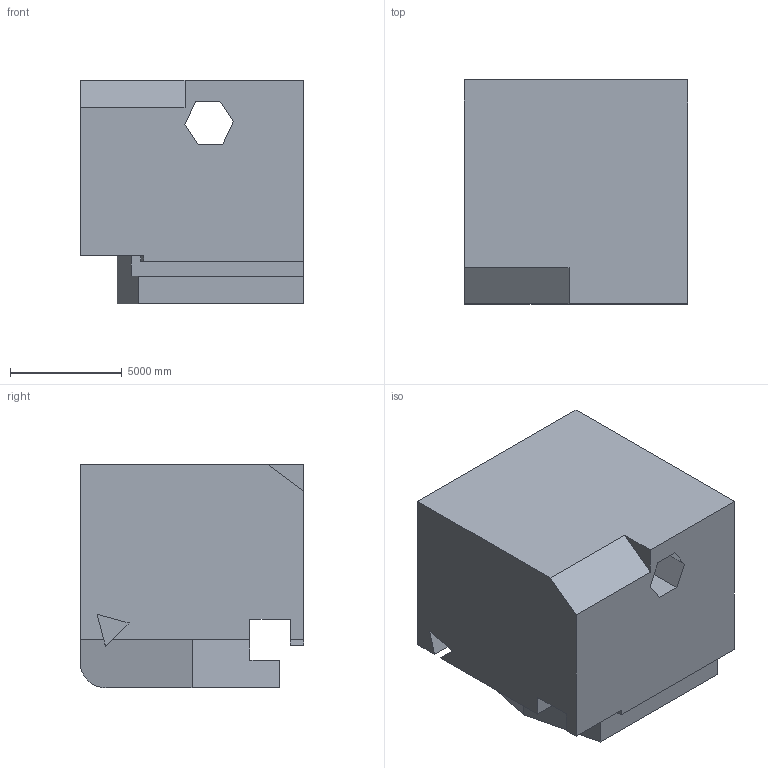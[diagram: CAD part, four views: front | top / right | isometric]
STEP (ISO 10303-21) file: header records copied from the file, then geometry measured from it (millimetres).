
FILE_DESCRIPTION (( 'STEP AP203' ), '1' );
FILE_NAME ('1736.STEP', '2022-08-19T12:13:52', ( 'user' ), ( '' ), 'SwSTEP 2.0', 'SolidWorks 2021', '' );
FILE_SCHEMA (( 'CONFIG_CONTROL_DESIGN' ));
Length unit declared in the file: centimetre
Products named in the file (1): 1736
Bounding box: 10000 x 10000 x 10000 mm (x, y, z)
Volume: 852238645814.7 mm3; surface area: 691258919.3 mm2
Topology: 1 solids, 1 shells, 34 faces, 96 edges, 64 vertices
Faces by surface type: plane 33, cylinder 1
Entity records: 1162 total; most frequent: CARTESIAN_POINT 198, ORIENTED_EDGE 192, DIRECTION 166, EDGE_CURVE 96, LINE 94, VECTOR 94, VERTEX_POINT 64, AXIS2_PLACEMENT_3D 36
